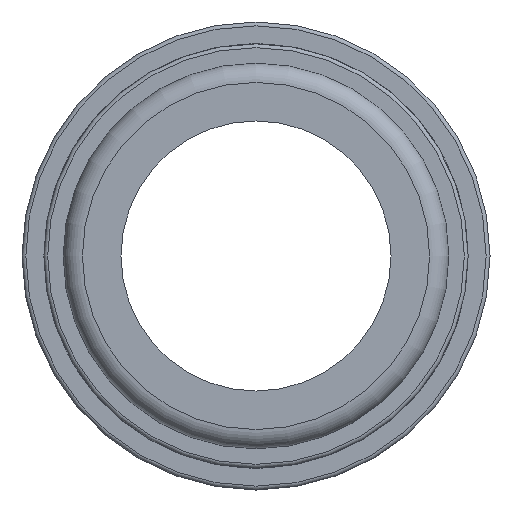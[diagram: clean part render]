
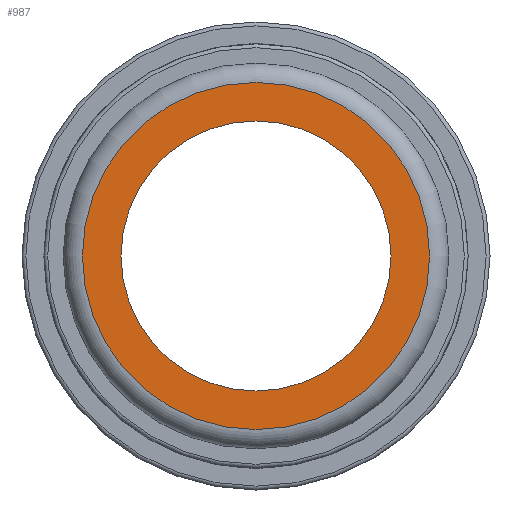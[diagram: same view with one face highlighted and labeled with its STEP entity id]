
A CAD part, left-side view. The second image highlights one B-rep face of the part: STEP entity #987.
In plain terms, the highlighted planar face has unit normal (-1, 0, 0).
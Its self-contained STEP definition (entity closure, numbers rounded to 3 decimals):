
#181=PLANE('',#1101);
#217=FACE_BOUND('',#343,.T.);
#273=FACE_OUTER_BOUND('',#342,.T.);
#342=EDGE_LOOP('',(#913));
#343=EDGE_LOOP('',(#914));
#402=CIRCLE('',#1099,21.511);
#404=CIRCLE('',#1102,16.731);
#500=VERTEX_POINT('',#1872);
#502=VERTEX_POINT('',#1877);
#640=EDGE_CURVE('',#500,#500,#402,.T.);
#642=EDGE_CURVE('',#502,#502,#404,.T.);
#913=ORIENTED_EDGE('',*,*,#640,.F.);
#914=ORIENTED_EDGE('',*,*,#642,.T.);
#987=ADVANCED_FACE('',(#273,#217),#181,.T.);
#1099=AXIS2_PLACEMENT_3D('',#1873,#1380,#1381);
#1101=AXIS2_PLACEMENT_3D('',#1876,#1384,#1385);
#1102=AXIS2_PLACEMENT_3D('',#1878,#1386,#1387);
#1380=DIRECTION('center_axis',(1.,0.,0.));
#1381=DIRECTION('ref_axis',(0.,-1.,0.));
#1384=DIRECTION('center_axis',(-1.,0.,0.));
#1385=DIRECTION('ref_axis',(0.,0.,1.));
#1386=DIRECTION('center_axis',(1.,0.,0.));
#1387=DIRECTION('ref_axis',(0.,0.,-1.));
#1872=CARTESIAN_POINT('',(-100.,21.511,0.));
#1873=CARTESIAN_POINT('Origin',(-100.,0.,0.));
#1876=CARTESIAN_POINT('Origin',(-100.,23.902,0.));
#1877=CARTESIAN_POINT('',(-100.,16.731,0.));
#1878=CARTESIAN_POINT('Origin',(-100.,0.,0.));
